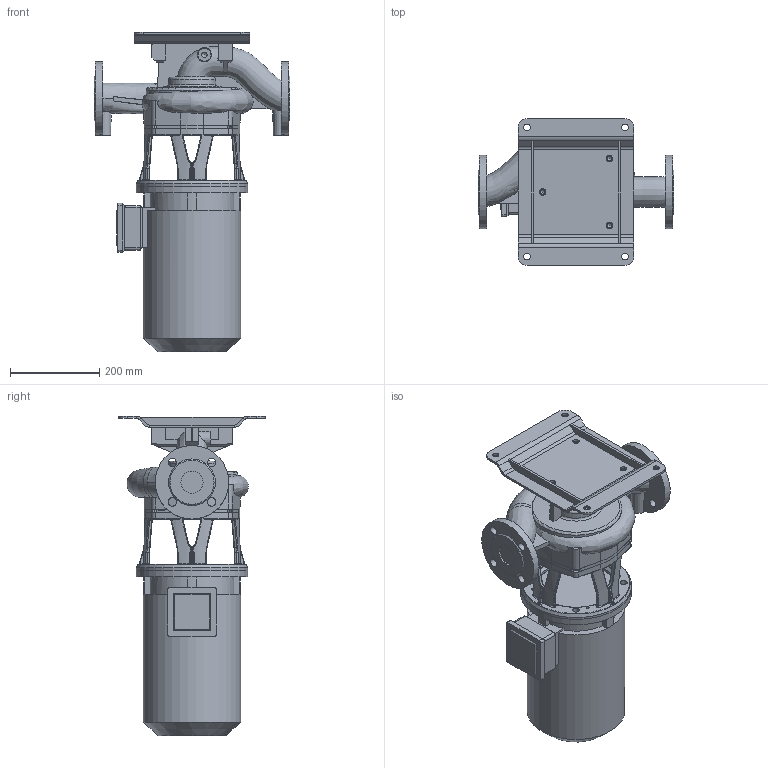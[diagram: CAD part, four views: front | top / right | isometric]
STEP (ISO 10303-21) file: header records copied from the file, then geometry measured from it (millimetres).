
FILE_DESCRIPTION (( 'STEP AP203' ), '1' );
FILE_NAME ('KI50-180_2_4kW.STEP', '2024-07-29T05:07:00', ( '' ), ( '' ), 'SwSTEP 2.0', 'SolidWorks 2023', '' );
FILE_SCHEMA (( 'CONFIG_CONTROL_DESIGN' ));
Length unit declared in the file: millimetre
Products named in the file (11): 230031; 230481; 230413; 230482; 230034; 440117_480130_solid; 230033; 220495; 220494; KI50-180_2_4kW; 230412
Assembly tree (11 placements, depth 3):
  KI50-180_2_4kW
    230413
      230412
    230482
      230481
    220495
      220494
    230034
      230031
      230033  x2
    440117_480130_solid
Bounding box: 440 x 330.18 x 717.85 mm (x, y, z)
Volume: 23090588.3 mm3; surface area: 1266215.4 mm2
Topology: 7 solids, 7 shells, 898 faces, 2302 edges, 1384 vertices
Faces by surface type: plane 278, cylinder 271, bspline 193, torus 81, cone 61, sphere 14
Full cylindrical faces by diameter (mm): 5 x4, 6 x3, 6.8 x4, 7 x8, 10.2 x7, 11.8 x4, 14 x4, 14.5 x7, 15 x8, 19 x8, 50 x2, 150 x1, 165 x2, 180 x1, 186 x1, 189 x1, 219 x1, 250 x2
Entity records: 48430 total; most frequent: CARTESIAN_POINT 28021, ORIENTED_EDGE 4182, DIRECTION 3713, EDGE_CURVE 2091, AXIS2_PLACEMENT_3D 1483, VERTEX_POINT 1316, EDGE_LOOP 1083, FACE_OUTER_BOUND 959
